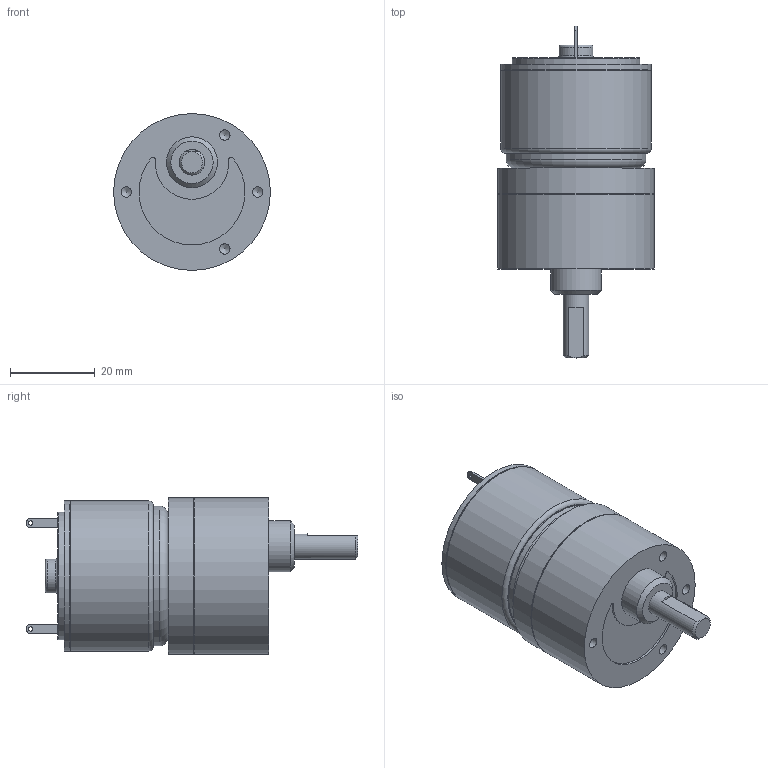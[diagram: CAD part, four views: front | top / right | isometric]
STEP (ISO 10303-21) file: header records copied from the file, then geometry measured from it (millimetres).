
FILE_DESCRIPTION((''),'2;1');
FILE_NAME('C:\Documents and Settings\SSEGAWA\デスクトップ\TP-3526G-HM-2.STP','2013-07-09T17:30:53',('SSEGAWA'),(''),'Autodesk Inventor 2010','Autodesk Inventor 2010','');
FILE_SCHEMA(('CONFIG_CONTROL_DESIGN'));
Length unit declared in the file: millimetre
Products named in the file (3): tp_3526g_hm_2; hm_2; tp_3526g
Assembly tree (2 placements, depth 2):
  tp_3526g_hm_2
    hm_2
    tp_3526g
Bounding box: 37 x 78.3 x 37 mm (x, y, z)
Volume: 51400.9 mm3; surface area: 10616.4 mm2
Topology: 2 solids, 2 shells, 75 faces, 157 edges, 103 vertices
Faces by surface type: plane 29, cylinder 22, bspline 17, torus 4, cone 3
Full cylindrical faces by diameter (mm): 2 x1, 2.4 x1, 5 x2, 6 x1, 8 x1, 10 x1, 12 x1, 30 x1, 33 x1, 35 x1, 35.4 x2, 36.6 x1, 37 x2
Entity records: 2055 total; most frequent: CARTESIAN_POINT 639, DIRECTION 295, ORIENTED_EDGE 200, EDGE_LOOP 135, AXIS2_PLACEMENT_3D 134, EDGE_CURVE 100, VERTEX_POINT 85, FACE_OUTER_BOUND 75
